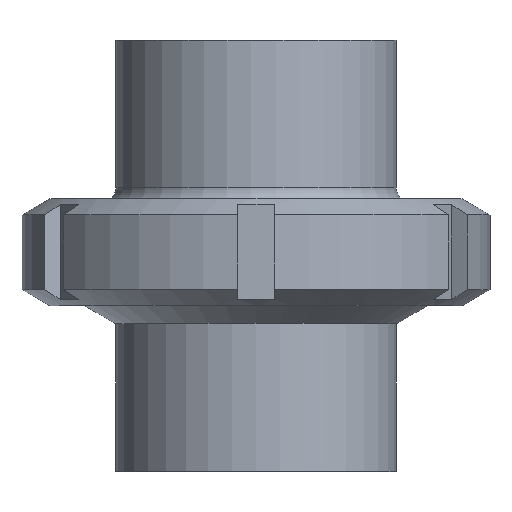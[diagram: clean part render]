
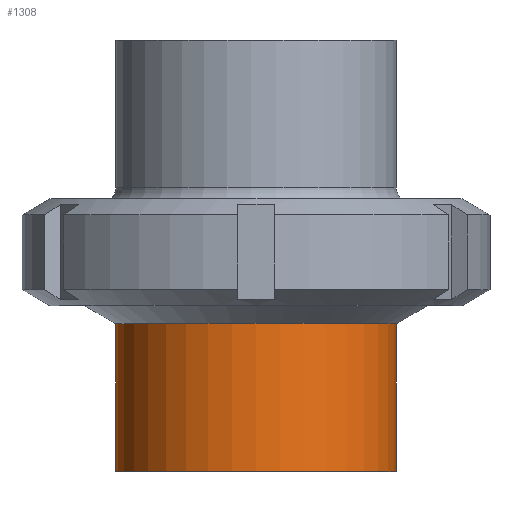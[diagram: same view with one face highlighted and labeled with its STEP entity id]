
A CAD part, top view. The second image highlights one B-rep face of the part: STEP entity #1308.
In plain terms, the highlighted cylindrical face has radius 38.1 mm (diameter 76.2 mm), a full revolution.
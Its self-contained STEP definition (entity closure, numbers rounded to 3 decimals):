
#79=CYLINDRICAL_SURFACE('',#1530,38.1);
#98=LINE('',#2201,#142);
#142=VECTOR('',#1788,38.1);
#246=FACE_OUTER_BOUND('',#317,.T.);
#317=EDGE_LOOP('',(#922,#923,#924,#925,#926,#927));
#416=CIRCLE('',#1528,38.1);
#417=CIRCLE('',#1529,38.1);
#418=CIRCLE('',#1531,38.1);
#419=CIRCLE('',#1532,38.1);
#529=VERTEX_POINT('',#2191);
#530=VERTEX_POINT('',#2192);
#531=VERTEX_POINT('',#2197);
#532=VERTEX_POINT('',#2198);
#682=EDGE_CURVE('',#529,#530,#416,.T.);
#683=EDGE_CURVE('',#530,#529,#417,.T.);
#685=EDGE_CURVE('',#531,#532,#418,.T.);
#686=EDGE_CURVE('',#532,#531,#419,.T.);
#687=EDGE_CURVE('',#532,#530,#98,.T.);
#922=ORIENTED_EDGE('',*,*,#685,.F.);
#923=ORIENTED_EDGE('',*,*,#686,.F.);
#924=ORIENTED_EDGE('',*,*,#687,.T.);
#925=ORIENTED_EDGE('',*,*,#683,.T.);
#926=ORIENTED_EDGE('',*,*,#682,.T.);
#927=ORIENTED_EDGE('',*,*,#687,.F.);
#1308=ADVANCED_FACE('',(#246),#79,.T.);
#1528=AXIS2_PLACEMENT_3D('',#2193,#1777,#1778);
#1529=AXIS2_PLACEMENT_3D('',#2194,#1779,#1780);
#1530=AXIS2_PLACEMENT_3D('',#2196,#1782,#1783);
#1531=AXIS2_PLACEMENT_3D('',#2199,#1784,#1785);
#1532=AXIS2_PLACEMENT_3D('',#2200,#1786,#1787);
#1777=DIRECTION('center_axis',(0.,-1.,0.));
#1778=DIRECTION('ref_axis',(1.,0.,0.));
#1779=DIRECTION('center_axis',(0.,-1.,0.));
#1780=DIRECTION('ref_axis',(1.,0.,0.));
#1782=DIRECTION('center_axis',(0.,-1.,0.));
#1783=DIRECTION('ref_axis',(1.,0.,0.));
#1784=DIRECTION('center_axis',(0.,-1.,0.));
#1785=DIRECTION('ref_axis',(1.,0.,0.));
#1786=DIRECTION('center_axis',(0.,-1.,0.));
#1787=DIRECTION('ref_axis',(1.,0.,0.));
#1788=DIRECTION('',(0.,1.,0.));
#2191=CARTESIAN_POINT('',(38.1,40.15,0.));
#2192=CARTESIAN_POINT('',(-38.1,40.15,0.));
#2193=CARTESIAN_POINT('Origin',(0.,40.15,0.));
#2194=CARTESIAN_POINT('Origin',(0.,40.15,0.));
#2196=CARTESIAN_POINT('Origin',(0.,20.075,0.));
#2197=CARTESIAN_POINT('',(38.1,0.,0.));
#2198=CARTESIAN_POINT('',(-38.1,0.,0.));
#2199=CARTESIAN_POINT('Origin',(0.,0.,0.));
#2200=CARTESIAN_POINT('Origin',(0.,0.,0.));
#2201=CARTESIAN_POINT('',(-38.1,20.075,0.));
